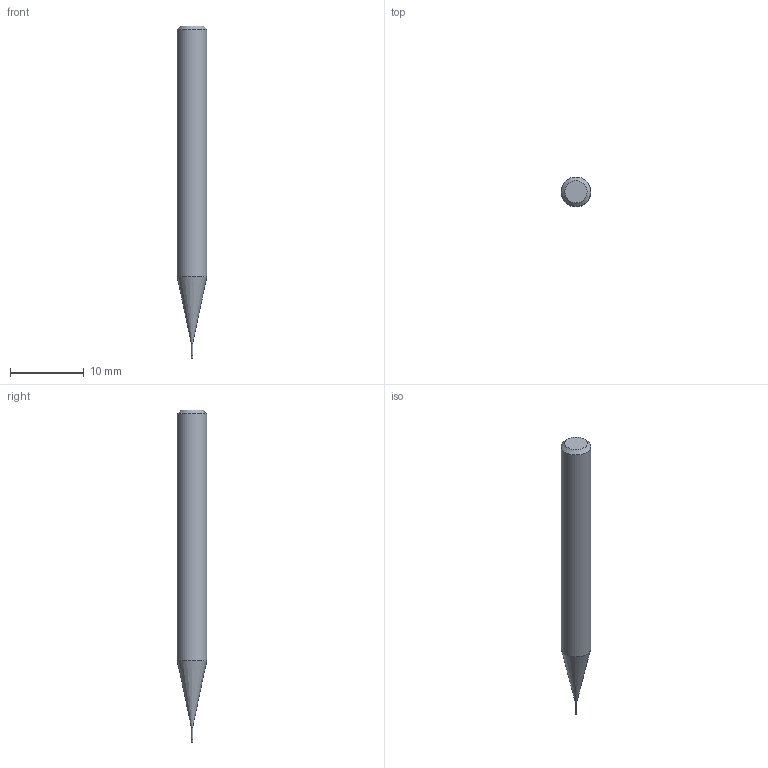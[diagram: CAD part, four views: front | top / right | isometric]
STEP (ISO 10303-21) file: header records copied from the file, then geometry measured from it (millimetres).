
FILE_DESCRIPTION((''),'2;1');
FILE_NAME('C:\Users\nsx150\AppData\Local\Temp\Mastercam 2021\17T8Q8S9EB\TEMP.step','2021-04-21T14:23:30',(''),(''),'STEP Write','Mastercam 2021 ... CNC Software, Inc.','');
FILE_SCHEMA(('AUTOMOTIVE_DESIGN'));
Length unit declared in the file: millimetre
Products named in the file (1): None
Bounding box: 4 x 4 x 45 mm (x, y, z)
Volume: 465.5 mm3; surface area: 497.6 mm2
Topology: 2 solids, 2 shells, 9 faces, 12 edges, 7 vertices
Faces by surface type: plane 4, cylinder 3, cone 2
Full cylindrical faces by diameter (mm): 0.18 x1, 0.2 x1, 4 x1
Entity records: 211 total; most frequent: DIRECTION 36, CARTESIAN_POINT 25, AXIS2_PLACEMENT_3D 18, ORIENTED_EDGE 14, EDGE_LOOP 14, STYLED_ITEM 12, ADVANCED_FACE 9, FACE_BOUND 8
